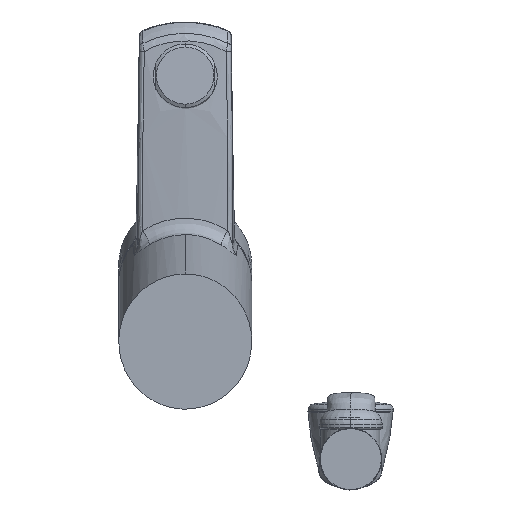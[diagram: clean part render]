
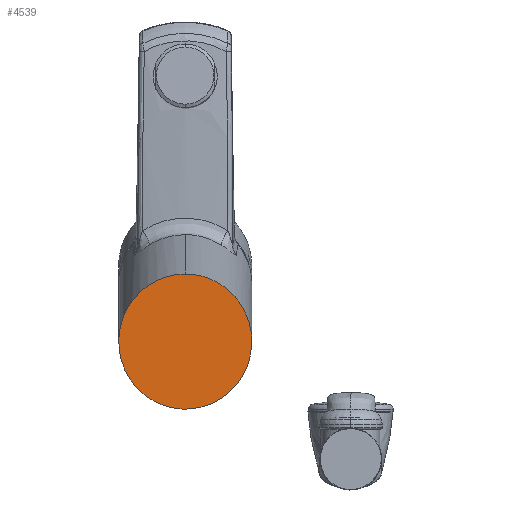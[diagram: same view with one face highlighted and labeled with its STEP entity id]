
A CAD part, front view. The second image highlights one B-rep face of the part: STEP entity #4539.
In plain terms, the highlighted planar face has unit normal (0, -1, 0).
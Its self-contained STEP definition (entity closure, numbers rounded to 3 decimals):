
#227 = EDGE_CURVE ( 'NONE', #10368, #4859, #4672, .T. ) ;
#267 = CARTESIAN_POINT ( 'NONE',  ( 0., 0., 24.68 ) ) ;
#1570 = CARTESIAN_POINT ( 'NONE',  ( 50., 0., 24.68 ) ) ;
#2361 = CARTESIAN_POINT ( 'NONE',  ( 0., 0., -26.091 ) ) ;
#3406 =( BOUNDED_CURVE ( )  B_SPLINE_CURVE ( 3, ( #10878, #8803, #1570, #8843 ),
 .UNSPECIFIED., .F., .T. ) 
 B_SPLINE_CURVE_WITH_KNOTS ( ( 4, 4 ),
 ( 3.142, 6.283 ),
 .UNSPECIFIED. ) 
 CURVE ( )  GEOMETRIC_REPRESENTATION_ITEM ( )  RATIONAL_B_SPLINE_CURVE ( ( 1., 0.333, 0.333, 1. ) ) 
 REPRESENTATION_ITEM ( '' )  );
#4034 = PLANE ( 'NONE',  #4746 ) ;
#4086 = CARTESIAN_POINT ( 'NONE',  ( 0., 0., 0. ) ) ;
#4539 = ADVANCED_FACE ( 'NONE', ( #11700 ), #4034, .F. ) ;
#4672 =( BOUNDED_CURVE ( )  B_SPLINE_CURVE ( 3, ( #267, #8188, #8329, #2361 ),
 .UNSPECIFIED., .F., .T. ) 
 B_SPLINE_CURVE_WITH_KNOTS ( ( 4, 4 ),
 ( 0., 3.142 ),
 .UNSPECIFIED. ) 
 CURVE ( )  GEOMETRIC_REPRESENTATION_ITEM ( )  RATIONAL_B_SPLINE_CURVE ( ( 1., 0.333, 0.333, 1. ) ) 
 REPRESENTATION_ITEM ( '' )  );
#4746 = AXIS2_PLACEMENT_3D ( 'NONE', #4086, #11341, #5103 ) ;
#4859 = VERTEX_POINT ( 'NONE', #10941 ) ;
#5103 = DIRECTION ( 'NONE',  ( 0., 0., 1. ) ) ;
#5366 = ORIENTED_EDGE ( 'NONE', *, *, #227, .T. ) ;
#6200 = ORIENTED_EDGE ( 'NONE', *, *, #6611, .T. ) ;
#6611 = EDGE_CURVE ( 'NONE', #4859, #10368, #3406, .T. ) ;
#8188 = CARTESIAN_POINT ( 'NONE',  ( -50., 0., 24.68 ) ) ;
#8329 = CARTESIAN_POINT ( 'NONE',  ( -50., 0., -26.091 ) ) ;
#8803 = CARTESIAN_POINT ( 'NONE',  ( 50., 0., -26.091 ) ) ;
#8843 = CARTESIAN_POINT ( 'NONE',  ( 0., 0., 24.68 ) ) ;
#9218 = EDGE_LOOP ( 'NONE', ( #5366, #6200 ) ) ;
#10368 = VERTEX_POINT ( 'NONE', #10898 ) ;
#10878 = CARTESIAN_POINT ( 'NONE',  ( 0., 0., -26.091 ) ) ;
#10898 = CARTESIAN_POINT ( 'NONE',  ( 0., 0., 24.68 ) ) ;
#10941 = CARTESIAN_POINT ( 'NONE',  ( 0., 0., -26.091 ) ) ;
#11341 = DIRECTION ( 'NONE',  ( 0., 1., 0. ) ) ;
#11700 = FACE_OUTER_BOUND ( 'NONE', #9218, .T. ) ;
